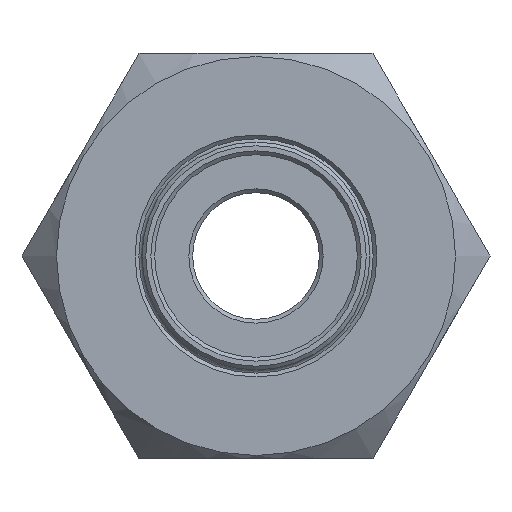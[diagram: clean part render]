
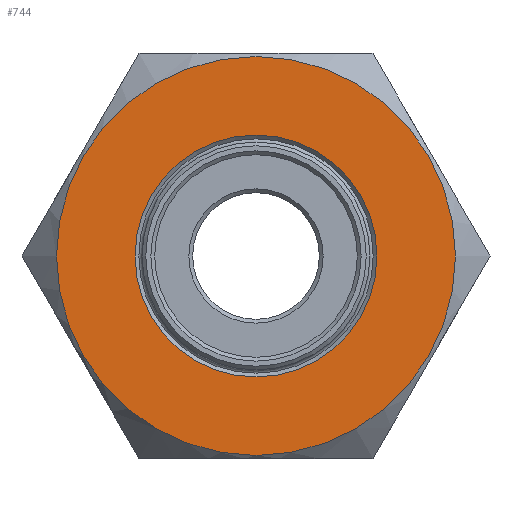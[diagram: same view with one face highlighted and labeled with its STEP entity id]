
A CAD part, left-side view. The second image highlights one B-rep face of the part: STEP entity #744.
In plain terms, the highlighted planar face has unit normal (-1, 0, 0).
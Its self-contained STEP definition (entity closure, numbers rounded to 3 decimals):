
#44=FACE_BOUND('',#132,.T.);
#58=PLANE('',#875);
#83=FACE_OUTER_BOUND('',#131,.T.);
#131=EDGE_LOOP('',(#551));
#132=EDGE_LOOP('',(#552));
#269=CIRCLE('',#856,15.75);
#276=CIRCLE('',#870,9.55);
#335=VERTEX_POINT('',#1268);
#341=VERTEX_POINT('',#1294);
#407=EDGE_CURVE('',#335,#335,#269,.T.);
#419=EDGE_CURVE('',#341,#341,#276,.T.);
#551=ORIENTED_EDGE('',*,*,#407,.T.);
#552=ORIENTED_EDGE('',*,*,#419,.F.);
#744=ADVANCED_FACE('',(#83,#44),#58,.T.);
#856=AXIS2_PLACEMENT_3D('',#1270,#971,#972);
#870=AXIS2_PLACEMENT_3D('',#1295,#1004,#1005);
#875=AXIS2_PLACEMENT_3D('',#1305,#1016,#1017);
#971=DIRECTION('center_axis',(-1.,0.,0.));
#972=DIRECTION('ref_axis',(0.,1.,0.));
#1004=DIRECTION('center_axis',(-1.,0.,0.));
#1005=DIRECTION('ref_axis',(0.,0.,-1.));
#1016=DIRECTION('center_axis',(-1.,0.,0.));
#1017=DIRECTION('ref_axis',(0.,0.,1.));
#1268=CARTESIAN_POINT('',(-13.5,-15.75,0.));
#1270=CARTESIAN_POINT('Origin',(-13.5,0.,0.));
#1294=CARTESIAN_POINT('',(-13.5,0.,9.55));
#1295=CARTESIAN_POINT('Origin',(-13.5,0.,0.));
#1305=CARTESIAN_POINT('Origin',(-13.5,0.,0.));
